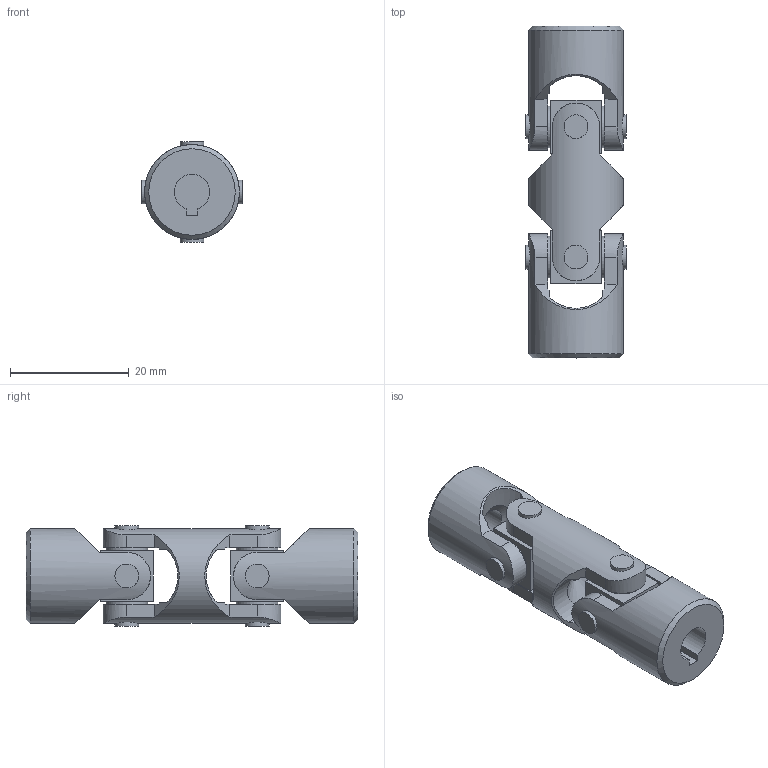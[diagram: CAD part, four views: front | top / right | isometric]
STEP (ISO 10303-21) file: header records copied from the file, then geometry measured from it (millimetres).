
FILE_DESCRIPTION(/* description */ (''),/* implementation_level */ '2;1');
FILE_NAME(/* name */ '\\SRV2016\Societa\Stefano\Disegni 3D\0Catalogo 3D\14Doppi XD\Ø16_01XD_SX0D062C.stp',/* time_stamp */ '2023-05-15T08:29:03+02:00',/* author */ ('acquisti'),/* organization */ (''),/* preprocessor_version */ 'ST-DEVELOPER v15.6',/* originating_system */ 'Autodesk Inventor 2015',/* authorisation */ '');
FILE_SCHEMA (('AUTOMOTIVE_DESIGN { 1 0 10303 214 3 1 1 }'));
Length unit declared in the file: millimetre
Products named in the file (4): 01X MOD; 01-02X SFE; 01X MOC; Ø16_01XD_SX0D0600
Assembly tree (5 placements, depth 2):
  Ø16_01XD_SX0D0600
    01X MOD
    01-02X SFE  x2
    01X MOC  x2
Bounding box: 16.9 x 56 x 16.9 mm (x, y, z)
Volume: 7716.6 mm3; surface area: 5551.1 mm2
Topology: 5 solids, 5 shells, 127 faces, 325 edges, 220 vertices
Faces by surface type: plane 68, cylinder 33, cone 22, torus 4
Full cylindrical faces by diameter (mm): 4 x8, 7 x8, 8.5 x4, 16 x3
Entity records: 3057 total; most frequent: CARTESIAN_POINT 1125, ORIENTED_EDGE 382, DIRECTION 359, EDGE_CURVE 191, AXIS2_PLACEMENT_3D 152, VERTEX_POINT 141, EDGE_LOOP 118, FACE_OUTER_BOUND 85
